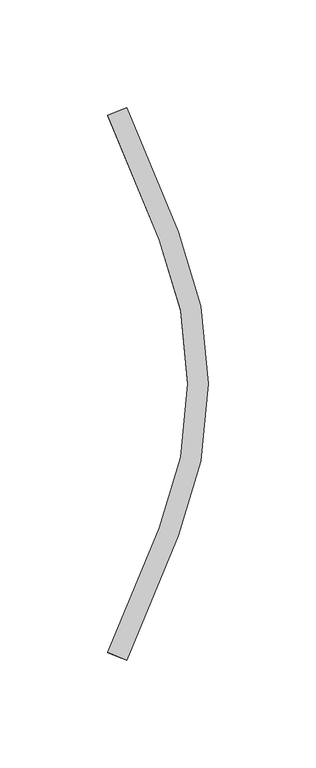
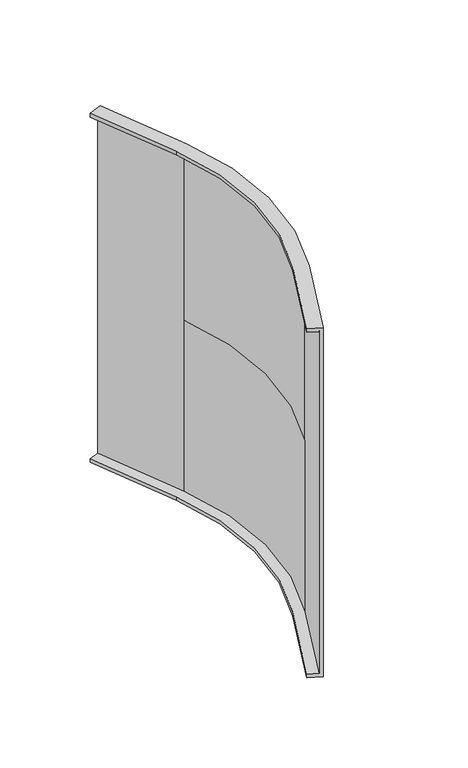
"""IFC4 building model written with IfcOpenShell, lengths in millimetres: cable carrier fitting geometry, CCT_Hyperline_FBTR-ERS45-CVR Крышка на угол 45° внешний (вниз) для оптического лотка : Крышка на угол 45° внешний (вниз) для оптического лотка."""

from ifc_helpers import new_model, si_unit, frame, origin, place, context, project, spatial, polyline, circle_curve, source, transform, mapped, element, save
from ifc_brep_helpers import plane_surface, cylinder_surface, revolved_surface, advanced_brep


def cable_carrier_fitting_a6652477(model_context):
    return source(origin(), model_context, "Body", "AdvancedBrep", [
        advanced_brep(
        [(56.4671567, 115.9898951, 120.0), (50.0, 113.3111111, 120.0), (50.0, 113.3111111, 122.54), (58.8138107, 116.961911, 122.54), (58.8138107, 116.961911, -122.54), (50.0, 113.3111111, -122.54), (50.0, 113.3111111, -120.0), (56.4671567, 115.9898951, -120.0), (73.9177145, 55.5686403, -120.0), (73.9177145, -78.370561, -120.0), (50.0, -136.1130318, -120.0), (56.4671567, -138.7918158, -120.0), (80.3848713, -81.049345, -120.0), (80.3848713, 58.2474243, -120.0), (73.9177145, 55.5686403, -122.54), (82.7315253, 59.2194402, -122.54), (82.7315253, -82.021361, -122.54), (58.8138107, -139.7638317, -122.54), (50.0, -136.1130318, -122.54), (73.9177145, -78.370561, -122.54), (82.7315253, 59.2194402, 122.54), (82.7315253, 59.2194402, 0.0), (80.3848713, 58.2474243, 0.0), (80.3848713, 58.2474243, 120.0), (82.7315253, -82.021361, 0.0), (80.3848713, -81.049345, 0.0), (58.8138107, -139.7638317, 122.54), (50.0, -136.1130318, 122.54), (50.0, -136.1130318, 120.0), (56.4671567, -138.7918158, 120.0), (82.7315253, -82.021361, 122.54), (80.3848713, -81.049345, 120.0), (73.9177145, -78.370561, 120.0), (73.9177145, 55.5686403, 120.0), (73.9177145, 55.5686403, 122.54), (73.9177145, -78.370561, 122.54)],
        [
            (0, 1),
            (1, 2),
            (2, 3),
            (3, 4),
            (4, 5),
            (5, 6),
            (6, 7),
            (7, 0),
            (6, 8),
            (8, 9, circle_curve(frame((-87.7612037, -11.4009604, -120.0), z_axis=(0.0, 0.0, -1.0), x_axis=(0.9238795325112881, 0.38268343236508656, 0.0)), 175.0)),
            (9, 10),
            (10, 11),
            (11, 12),
            (12, 13, circle_curve(frame((-87.7612037, -11.4009604, -120.0), z_axis=(0.0, 0.0, 1.0), x_axis=(0.9238795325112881, 0.38268343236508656, 0.0)), 182.0)),
            (13, 7),
            (5, 14),
            (14, 8),
            (4, 15),
            (15, 16, circle_curve(frame((-87.7612037, -11.4009604, -122.54), z_axis=(0.0, 0.0, -1.0), x_axis=(0.9238795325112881, 0.38268343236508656, 0.0)), 184.54)),
            (16, 17),
            (17, 18),
            (18, 19),
            (19, 14, circle_curve(frame((-87.7612037, -11.4009604, -122.54), z_axis=(0.0, 0.0, 1.0), x_axis=(0.9238795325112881, 0.38268343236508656, 0.0)), 175.0)),
            (3, 20),
            (20, 21),
            (21, 15),
            (13, 22),
            (22, 23),
            (23, 0),
            (19, 9),
            (21, 24, circle_curve(frame((-87.7612037, -11.4009604, 0.0), z_axis=(0.0, 0.0, -1.0), x_axis=(0.9238795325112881, 0.38268343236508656, 0.0)), 184.54)),
            (24, 16),
            (12, 25),
            (25, 22, circle_curve(frame((-87.7612037, -11.4009604, 0.0), z_axis=(0.0, 0.0, 1.0), x_axis=(0.9238795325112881, 0.38268343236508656, 0.0)), 182.0)),
            (10, 18),
            (17, 26),
            (26, 27),
            (27, 28),
            (28, 29),
            (29, 11),
            (24, 30),
            (30, 26),
            (29, 31),
            (31, 25),
            (23, 31, circle_curve(frame((-87.7612037, -11.4009604, 120.0), z_axis=(0.0, 0.0, -1.0), x_axis=(0.9238795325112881, 0.3826834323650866, 0.0)), 182.0)),
            (28, 32),
            (32, 33, circle_curve(frame((-87.7612037, -11.4009604, 120.0), z_axis=(0.0, 0.0, 1.0), x_axis=(0.9238795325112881, 0.3826834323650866, 0.0)), 175.0)),
            (33, 1),
            (33, 34),
            (34, 2),
            (34, 35, circle_curve(frame((-87.7612037, -11.4009604, 122.54), z_axis=(0.0, 0.0, -1.0), x_axis=(0.9238795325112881, 0.3826834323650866, 0.0)), 175.0)),
            (35, 27),
            (30, 20, circle_curve(frame((-87.7612037, -11.4009604, 122.54), z_axis=(0.0, 0.0, 1.0), x_axis=(0.9238795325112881, 0.3826834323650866, 0.0)), 184.54)),
            (32, 35),
        ],
        [
            plane_surface(frame((54.6193977, 115.2245283, -55.0), z_axis=(-0.38268343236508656, 0.9238795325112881, 0.0), x_axis=(0.0, 0.0, 1.0))),
            plane_surface(frame((50.0, 113.3111111, -120.0), z_axis=(0.0, 0.0, 1.0), x_axis=(0.38268343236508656, -0.9238795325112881, 0.0))),
            plane_surface(frame((50.0, 113.3111111, -122.54), z_axis=(-0.9238795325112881, -0.38268343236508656, 0.0), x_axis=(0.38268343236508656, -0.9238795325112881, 0.0))),
            plane_surface(frame((58.8138107, 116.961911, -122.54), z_axis=(0.0, 0.0, -1.0), x_axis=(0.38268343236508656, -0.9238795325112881, 0.0))),
            plane_surface(frame((58.8138107, 116.961911, 0.0), z_axis=(0.9238795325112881, 0.38268343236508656, 0.0), x_axis=(0.38268343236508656, -0.9238795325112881, 0.0))),
            plane_surface(frame((56.4671567, 115.9898951, -120.0), z_axis=(-0.9238795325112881, -0.38268343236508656, 0.0), x_axis=(0.38268343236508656, -0.9238795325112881, 0.0))),
            revolved_surface(polyline([(73.91771448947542, 55.568640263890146, -122.54), (73.91771448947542, 55.568640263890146, -120.0)]), (-87.7612037, -11.4009604, -55.0), (0.0, 0.0, -1.0)),
            cylinder_surface(frame((-87.7612037, -11.4009604, -55.0), z_axis=(0.0, 0.0, -1.0), x_axis=(0.9238795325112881, 0.38268343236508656, 0.0)), 184.54),
            revolved_surface(polyline([(80.38487121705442, 58.24742429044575, -120.0), (80.38487121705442, 58.24742429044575, 0.0)]), (-87.7612037, -11.4009604, -55.0), (0.0, 0.0, -1.0)),
            plane_surface(frame((54.6193977, -138.026449, -55.0), z_axis=(-0.3826834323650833, -0.9238795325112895, 0.0), x_axis=(0.0, 0.0, 1.0))),
            plane_surface(frame((73.9177145, -78.370561, -122.54), z_axis=(-0.9238795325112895, 0.3826834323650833, 0.0), x_axis=(-0.3826834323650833, -0.9238795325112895, 0.0))),
            plane_surface(frame((82.7315253, -82.021361, 0.0), z_axis=(0.9238795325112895, -0.3826834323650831, 0.0), x_axis=(-0.3826834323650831, -0.9238795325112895, 0.0))),
            plane_surface(frame((80.3848713, -81.049345, -120.0), z_axis=(-0.9238795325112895, 0.3826834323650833, 0.0), x_axis=(-0.3826834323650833, -0.9238795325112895, 0.0))),
            plane_surface(frame((56.4671567, 115.9898951, 120.0), z_axis=(0.0, 0.0, -1.0), x_axis=(0.38268343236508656, -0.9238795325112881, 0.0))),
            plane_surface(frame((50.0, 113.3111111, 120.0), z_axis=(-0.9238795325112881, -0.38268343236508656, 0.0), x_axis=(0.38268343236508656, -0.9238795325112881, 0.0))),
            plane_surface(frame((50.0, 113.3111111, 122.54), z_axis=(0.0, 0.0, 1.0), x_axis=(0.38268343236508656, -0.9238795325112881, 0.0))),
            revolved_surface(polyline([(73.91771448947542, 55.56864026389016, 120.0), (73.91771448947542, 55.56864026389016, 122.54)]), (-87.7612037, -11.4009604, 55.0), (0.0, 0.0, -1.0)),
            cylinder_surface(frame((-87.7612037, -11.4009604, 55.0), z_axis=(0.0, 0.0, -1.0), x_axis=(0.9238795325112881, 0.3826834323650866, 0.0)), 184.54),
            revolved_surface(polyline([(80.38487121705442, 58.247424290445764, 0.0), (80.38487121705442, 58.247424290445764, 120.0)]), (-87.7612037, -11.4009604, 55.0), (0.0, 0.0, -1.0)),
            plane_surface(frame((73.9177145, -78.370561, 120.0), z_axis=(-0.9238795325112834, 0.38268343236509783, 0.0), x_axis=(-0.38268343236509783, -0.9238795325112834, 0.0))),
        ],
        [
            (0, [[1, 2, 3, 4, 5, 6, 7, 8]]),
            (1, [[-7, 9, 10, 11, 12, 13, 14, 15]]),
            (2, [[-6, 16, 17, -9]]),
            (3, [[-5, 18, 19, 20, 21, 22, 23, -16]]),
            (4, [[-4, 24, 25, 26, -18]]),
            (5, [[-8, -15, 27, 28, 29]]),
            (6, [[-10, -17, -23, 30]]),
            (7, [[-19, -26, 31, 32]]),
            (8, [[-14, 33, 34, -27]]),
            (9, [[-12, 35, -21, 36, 37, 38, 39, 40]]),
            (10, [[-11, -30, -22, -35]]),
            (11, [[-36, -20, -32, 41, 42]]),
            (12, [[-13, -40, 43, 44, -33]]),
            (13, [[-1, -29, 45, -43, -39, 46, 47, 48]]),
            (14, [[-2, -48, 49, 50]]),
            (15, [[-3, -50, 51, 52, -37, -42, 53, -24]]),
            (16, [[-47, 54, -51, -49]]),
            (17, [[-53, -41, -31, -25]]),
            (18, [[-45, -28, -34, -44]]),
            (19, [[-46, -38, -52, -54]]),
        ],
    ),
    ])


if __name__ == "__main__":
    model = new_model("IFC4")
    model_context = context("Model", 3, world=origin())
    ifc_project = project(units=[si_unit("LENGTHUNIT", "METRE", prefix="MILLI")], contexts=[model_context])
    site = spatial("IfcSite", under=ifc_project)
    building = spatial("IfcBuilding", under=site)
    placement = place(None, origin())
    cable_carrier_fitting_shape = cable_carrier_fitting_a6652477(model_context)
    element("IfcCableCarrierFitting", 1, ObjectType="CCT_Hyperline_FBTR-ERS45-CVR Крышка на угол 45° внешний (вниз) для оптического лотка : Крышка на угол 45° внешний (вниз) для оптического лотка", at=placement, inside=building, context=model_context, shape_type="MappedRepresentation", body=[
        mapped(cable_carrier_fitting_shape, transform((0.0, 0.0, 0.0), x_axis=(1.0, 0.0, 0.0), y_axis=(0.0, 1.0, 0.0), z_axis=(0.0, 0.0, 1.0))),
    ])
    save(model, "model.ifc")
